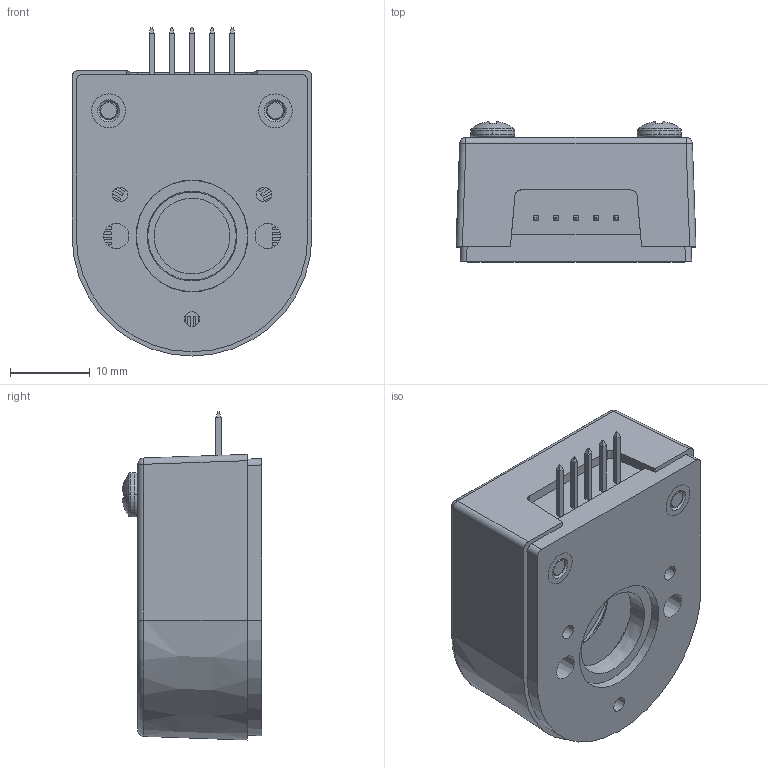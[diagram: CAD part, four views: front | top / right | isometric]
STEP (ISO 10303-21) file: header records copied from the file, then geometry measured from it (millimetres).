
FILE_DESCRIPTION (( 'STEP AP214' ), '1' );
FILE_NAME ('drawing-vcd-3tx0-xxxx-05dd-p_v1.STEP', '2021-06-21T14:09:29', ( '' ), ( '' ), 'SwSTEP 2.0', 'SolidWorks 2019', '' );
FILE_SCHEMA (( 'AUTOMOTIVE_DESIGN' ));
Length unit declared in the file: inch
Products named in the file (2): drawing-vcd-3tx0-xxxx-05dd-p_v1
Bounding box: 30.18 x 17.58 x 41.25 mm (x, y, z)
Volume: 8325.5 mm3; surface area: 10269.6 mm2
Topology: 8 solids, 8 shells, 1246 faces, 3155 edges, 2072 vertices
Faces by surface type: plane 591, cylinder 506, cone 78, bspline 45, torus 20, sphere 6
Entity records: 60383 total; most frequent: CARTESIAN_POINT 14914, ORIENTED_EDGE 6310, DIRECTION 5743, EDGE_CURVE 3155, VERTEX_POINT 2072, AXIS2_PLACEMENT_3D 1955, LINE 1833, VECTOR 1833
